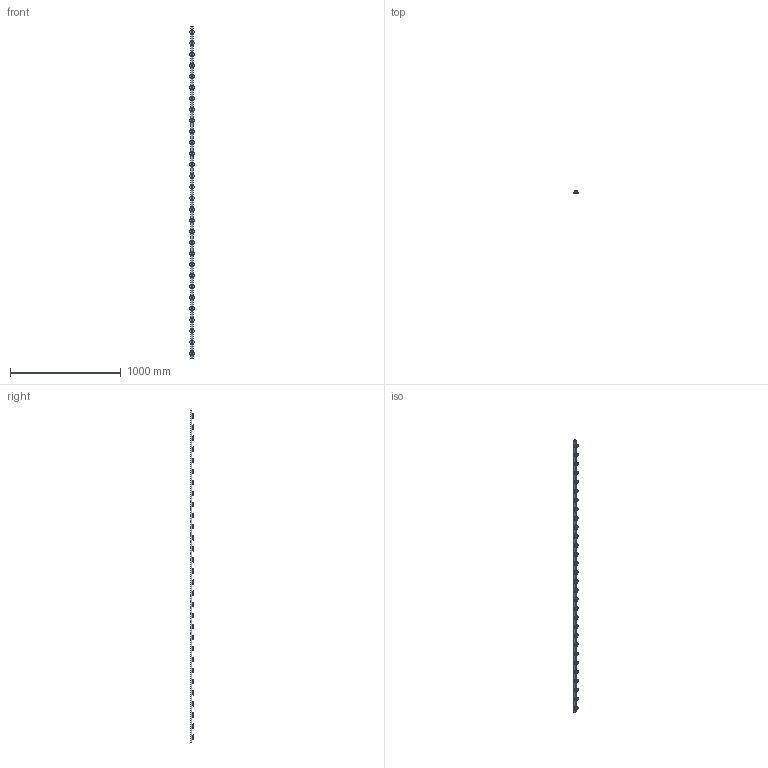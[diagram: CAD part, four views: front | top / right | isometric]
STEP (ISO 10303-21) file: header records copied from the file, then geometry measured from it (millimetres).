
FILE_DESCRIPTION (( 'STEP AP214' ), '1' );
FILE_NAME ('LF 1_-_LF 1 2998 mm lang.step', '2005-06-03T06:00:32', ( ' ' ), ( ' ' ), 'SwSTEP 2.0', 'SolidWorks 2004231', '' );
FILE_SCHEMA (( 'AUTOMOTIVE_DESIGN' ));
Length unit declared in the file: millimetre
Products named in the file (1): LF 1_-_LF 1  2998 mm lang
Bounding box: 40 x 27 x 2998 mm (x, y, z)
Volume: 1087863.3 mm3; surface area: 378856.4 mm2
Topology: 1 solids, 1 shells, 3337 faces, 8265 edges, 4990 vertices
Faces by surface type: plane 1564, cylinder 1293, cone 300, torus 180
Entity records: 101841 total; most frequent: CARTESIAN_POINT 28139, ORIENTED_EDGE 15930, DIRECTION 14317, EDGE_CURVE 7965, AXIS2_PLACEMENT_3D 5084, VERTEX_POINT 4990, VECTOR 4149, LINE 4149
